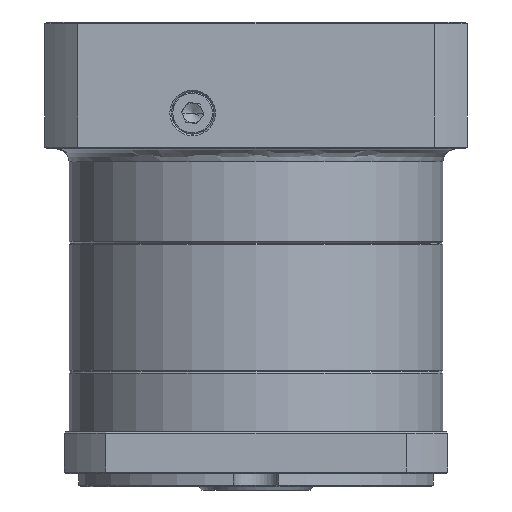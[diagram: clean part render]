
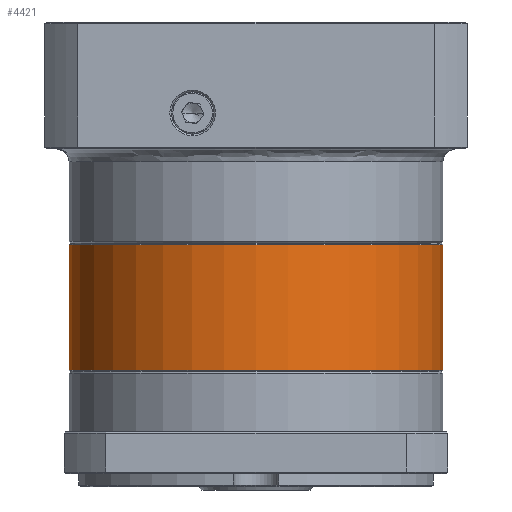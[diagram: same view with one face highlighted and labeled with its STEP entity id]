
A CAD part, front view. The second image highlights one B-rep face of the part: STEP entity #4421.
In plain terms, the highlighted cylindrical face has radius 57.5 mm (diameter 115 mm), a partial arc.
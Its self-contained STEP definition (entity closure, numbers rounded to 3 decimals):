
#1750 = EDGE_CURVE ( 'NONE', #85834, #68800, #128716, .T. ) ;
#3144 = CARTESIAN_POINT ( 'NONE',  ( 3.047, 56.49, -83.406 ) ) ;
#3703 = CARTESIAN_POINT ( 'NONE',  ( 118.047, 56.49, -44.694 ) ) ;
#4421 = ADVANCED_FACE ( 'NONE', ( #106677 ), #71847, .T. ) ;
#5425 = CARTESIAN_POINT ( 'NONE',  ( 118.047, 56.49, -83.406 ) ) ;
#7067 = VERTEX_POINT ( 'NONE', #129850 ) ;
#13924 = ORIENTED_EDGE ( 'NONE', *, *, #121994, .F. ) ;
#17723 = ORIENTED_EDGE ( 'NONE', *, *, #1750, .T. ) ;
#22465 = CARTESIAN_POINT ( 'NONE',  ( 60.547, 56.49, -83.406 ) ) ;
#28059 = DIRECTION ( 'NONE',  ( 0., 0., -1. ) ) ;
#31594 = EDGE_CURVE ( 'NONE', #7067, #85834, #60984, .T. ) ;
#44031 = CIRCLE ( 'NONE', #96733, 57.5 ) ;
#47018 = VECTOR ( 'NONE', #130336, 1000. ) ;
#48680 = CARTESIAN_POINT ( 'NONE',  ( 118.047, 56.49, -44.194 ) ) ;
#50672 = VERTEX_POINT ( 'NONE', #3703 ) ;
#59889 = CARTESIAN_POINT ( 'NONE',  ( 60.547, 56.49, -44.694 ) ) ;
#60984 = LINE ( 'NONE', #118934, #47018 ) ;
#68800 = VERTEX_POINT ( 'NONE', #5425 ) ;
#69200 = DIRECTION ( 'NONE',  ( -1., 0., 0. ) ) ;
#71847 = CYLINDRICAL_SURFACE ( 'NONE', #86886, 57.5 ) ;
#72083 = DIRECTION ( 'NONE',  ( -1., 0., 0. ) ) ;
#73662 = DIRECTION ( 'NONE',  ( 0., 0., -1. ) ) ;
#82193 = AXIS2_PLACEMENT_3D ( 'NONE', #22465, #122466, #72083 ) ;
#84175 = DIRECTION ( 'NONE',  ( -1., 0., 0. ) ) ;
#85834 = VERTEX_POINT ( 'NONE', #3144 ) ;
#86886 = AXIS2_PLACEMENT_3D ( 'NONE', #93016, #73662, #84175 ) ;
#93016 = CARTESIAN_POINT ( 'NONE',  ( 60.547, 56.49, -44.194 ) ) ;
#93022 = VECTOR ( 'NONE', #28059, 1000. ) ;
#96733 = AXIS2_PLACEMENT_3D ( 'NONE', #59889, #119979, #69200 ) ;
#106272 = ORIENTED_EDGE ( 'NONE', *, *, #31594, .T. ) ;
#106677 = FACE_OUTER_BOUND ( 'NONE', #115365, .T. ) ;
#112044 = ORIENTED_EDGE ( 'NONE', *, *, #119612, .F. ) ;
#115365 = EDGE_LOOP ( 'NONE', ( #112044, #13924, #106272, #17723 ) ) ;
#118429 = LINE ( 'NONE', #48680, #93022 ) ;
#118934 = CARTESIAN_POINT ( 'NONE',  ( 3.047, 56.49, -44.194 ) ) ;
#119612 = EDGE_CURVE ( 'NONE', #50672, #68800, #118429, .T. ) ;
#119979 = DIRECTION ( 'NONE',  ( 0., 0., 1. ) ) ;
#121994 = EDGE_CURVE ( 'NONE', #7067, #50672, #44031, .T. ) ;
#122466 = DIRECTION ( 'NONE',  ( 0., 0., 1. ) ) ;
#128716 = CIRCLE ( 'NONE', #82193, 57.5 ) ;
#129850 = CARTESIAN_POINT ( 'NONE',  ( 3.047, 56.49, -44.694 ) ) ;
#130336 = DIRECTION ( 'NONE',  ( 0., 0., -1. ) ) ;
